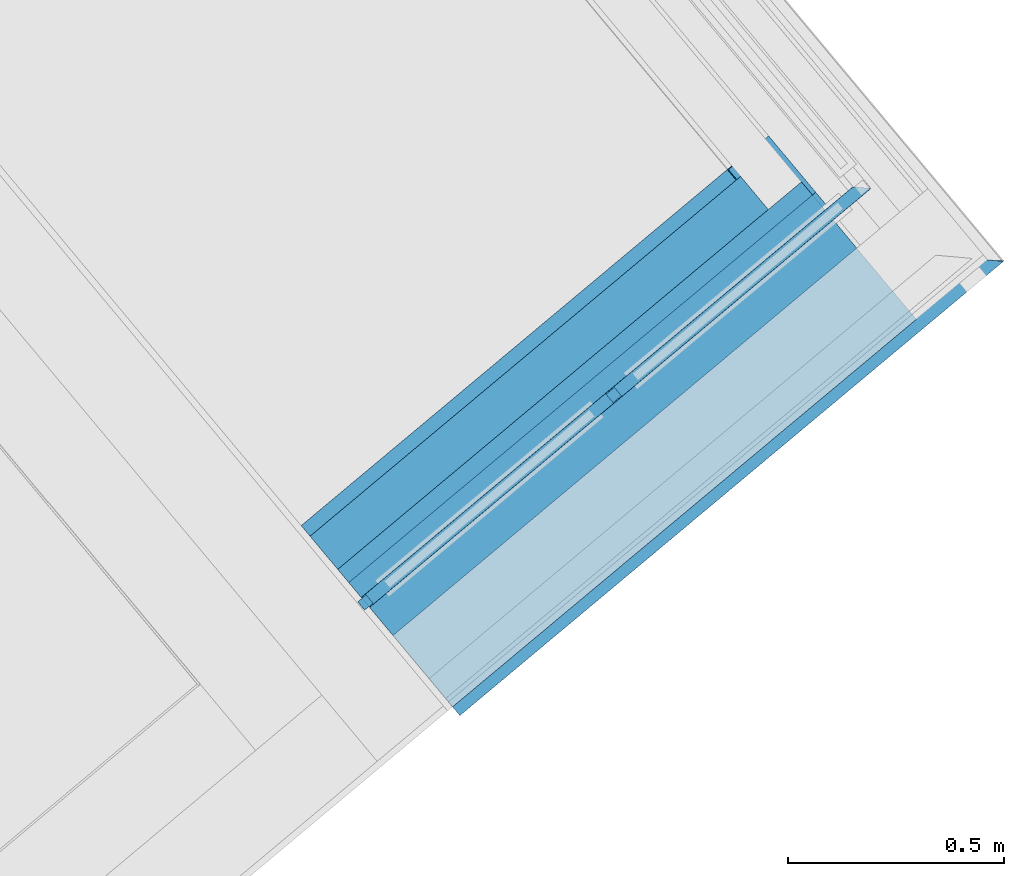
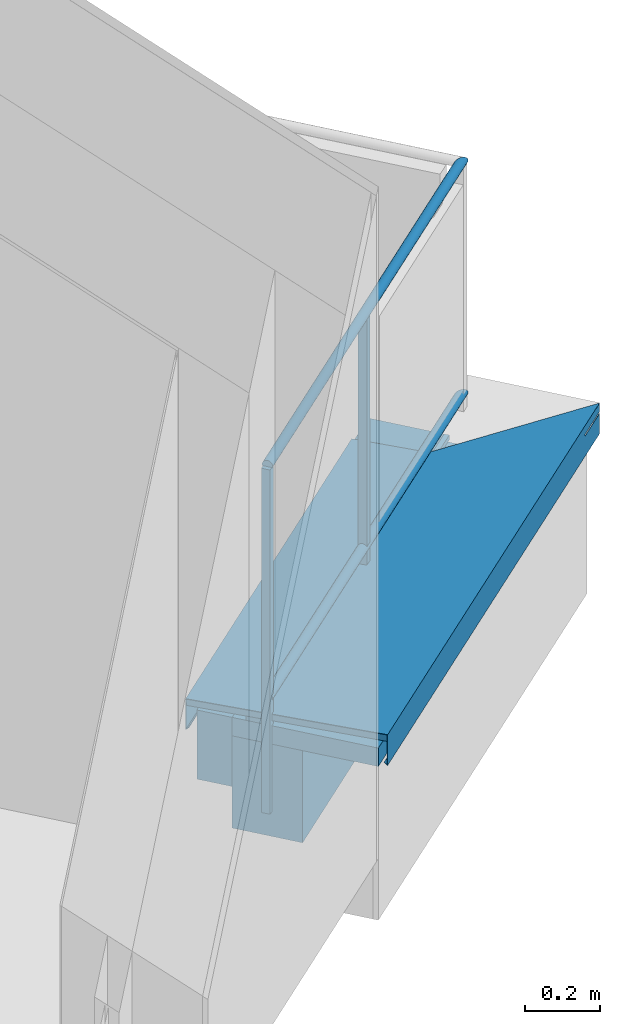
# One storey, part 32 of 61: 10 building element parts, 2 elements without a shape of their own.
"""IFC4 building model written with IfcOpenShell, lengths in metres."""

from ifc_helpers import new_model, entity, si_unit, converted_unit, derived_unit, direction, frame, origin_with_axes, place, context, subcontext, project, spatial, polygons, material, type_object, element, aggregate, save


model = new_model("IFC4")

# Units and contexts
model_context = context("Model", 3, precision=1e-05, world=origin_with_axes(), true_north=direction((0.0, 1.0)))
body_context = subcontext(model_context, "Body", "Model", "MODEL_VIEW")
ifc_project = project(units=[si_unit("LENGTHUNIT", "METRE"), si_unit("AREAUNIT", "SQUARE_METRE"), si_unit("VOLUMEUNIT", "CUBIC_METRE"), converted_unit("PLANEANGLEUNIT", "DEGREE", entity("IfcPlaneAngleMeasure", 0.0174532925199), si_unit("PLANEANGLEUNIT", "RADIAN"), dimensions=[0, 0, 0, 0, 0, 0, 0]), converted_unit("TIMEUNIT", "Year", entity("IfcTimeMeasure", 31556926.0), si_unit("TIMEUNIT", "SECOND"), dimensions=[0, 0, 1, 0, 0, 0, 0]), si_unit("MASSUNIT", "GRAM", prefix="KILO"), si_unit("THERMODYNAMICTEMPERATUREUNIT", "DEGREE_CELSIUS"), si_unit("LUMINOUSINTENSITYUNIT", "LUMEN"), si_unit("ENERGYUNIT", "JOULE", prefix="MEGA"), derived_unit("THERMALCONDUCTANCEUNIT", [(si_unit("POWERUNIT", "WATT"), 1), (si_unit("LENGTHUNIT", "METRE"), -1), (si_unit("THERMODYNAMICTEMPERATUREUNIT", "KELVIN"), -1)]), derived_unit("SPECIFICHEATCAPACITYUNIT", [(si_unit("ENERGYUNIT", "JOULE"), 1), (si_unit("MASSUNIT", "GRAM", prefix="KILO"), -1), (si_unit("THERMODYNAMICTEMPERATUREUNIT", "KELVIN"), -1)]), derived_unit("MASSDENSITYUNIT", [(si_unit("MASSUNIT", "GRAM", prefix="KILO"), 1), (si_unit("VOLUMEUNIT", "CUBIC_METRE"), -1)])], contexts=[model_context])

# Site, building, storey
site_placement = place(None, frame((-0.00153261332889, -0.00661245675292, 0.0), z_axis=(0.0, 0.0, 1.0), x_axis=(1.0, 0.0, 0.0)))
site = spatial("IfcSite", under=ifc_project, at=site_placement, Name="Gelände", CompositionType="ELEMENT")
building_placement = place(site_placement, origin_with_axes())
building = spatial("IfcBuilding", under=site, at=building_placement, Name="Gebäude", CompositionType="ELEMENT")
storey_placement = place(building_placement, frame((0.0, 0.0, 5.7), z_axis=(0.0, 0.0, 1.0), x_axis=(1.0, 0.0, 0.0)))
storey = spatial("IfcBuildingStorey", under=building, at=storey_placement, Name="DG1", CompositionType="ELEMENT", Elevation=5.7)

# Wall, building element parts
wall_type = type_object("IfcWallType", Name="Balkon Dämmung runter 574 x 610", PredefinedType="NOTDEFINED")
wall_placement = place(storey_placement, frame((13.259988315, 20.4436832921, -0.2), z_axis=(0.0, 0.0, 1.0), x_axis=(0.767365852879, 0.641209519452, 0.0)))
wall = element("IfcWall", 1, at=wall_placement, inside=storey, type_object=wall_type, Name="Wand-004", PredefinedType="NOTDEFINED")
ifc_material_1 = material(Name="Stahl")
building_element_part_1_placement = place(wall_placement, origin_with_axes())
building_element_part_1 = element("IfcBuildingElementPart", 2, at=building_element_part_1_placement, material=ifc_material_1, Name="Stahl", PredefinedType="NOTDEFINED", context=body_context, shape_type="Tessellation", body=[
    polygons([(0.0, 0.330698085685, 0.587937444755), (0.0, 0.330698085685, 0.491006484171), (1.30012100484, 0.330698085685, 0.491006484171), (1.30012100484, 0.330698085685, 0.496604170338), (1.28747735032, 0.330698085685, 0.496604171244), (1.28652006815, 0.330698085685, 0.497561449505), (1.28652006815, 0.330698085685, 0.498822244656), (1.28652006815, 0.330698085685, 0.498915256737), (1.28652006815, 0.330698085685, 0.499999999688), (1.28652006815, 0.330698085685, 0.506731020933), (1.28652006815, 0.330698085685, 0.509050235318), (1.28652006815, 0.330698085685, 0.509099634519), (1.28652006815, 0.330698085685, 0.51136132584), (1.28652006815, 0.330698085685, 0.511410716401), (1.28652006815, 0.330698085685, 0.519224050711), (1.28652006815, 0.330698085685, 0.519273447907), (1.28652006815, 0.330698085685, 0.559999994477), (1.28652006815, 0.330698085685, 0.567947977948), (1.28652006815, 0.330698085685, 0.573880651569), (1.28652006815, 0.330698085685, 0.575576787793), (1.28652006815, 0.330698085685, 0.575979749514), (1.28652006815, 0.330698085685, 0.57982217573), (1.28652006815, 0.330698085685, 0.581921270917), (1.28652006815, 0.330698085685, 0.584015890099), (1.28652006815, 0.330698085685, 0.586106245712), (1.28652006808, 0.330698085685, 0.587937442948), (0.0, 0.332051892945, 0.489652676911), (0.0, 0.331094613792, 0.488695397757), (0.0, 0.321878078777, 0.497911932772), (0.0, 0.32288233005, 0.498822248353), (0.0, -0.239276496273, 0.608570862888), (0.0, -0.240152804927, 0.608602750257), (0.0, -0.240146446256, 0.51136132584), (0.0, -0.232283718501, 0.519224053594), (0.0, -0.231373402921, 0.518219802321), (0.0, -0.240542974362, 0.509050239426), (0.0, -0.241500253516, 0.510007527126), (0.0, -0.241500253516, 0.610006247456), (0.0, 0.332051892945, 0.589243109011), (1.30012097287, 0.322882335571, 0.498822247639), (1.30012098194, 0.325100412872, 0.496604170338), (1.30012101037, 0.332051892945, 0.491006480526), (1.30012101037, 0.332051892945, 0.496604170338), (1.28747735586, 0.332051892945, 0.496604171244), (1.28652007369, 0.332051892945, 0.497561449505), (1.28652007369, 0.332051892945, 0.498822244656), (1.28652007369, 0.332051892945, 0.498915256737), (1.28652007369, 0.332051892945, 0.499999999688), (1.28652007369, 0.332051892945, 0.506731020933), (1.28652007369, 0.332051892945, 0.509050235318), (1.28652007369, 0.332051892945, 0.509099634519), (1.28652007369, 0.332051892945, 0.51136132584), (1.28652007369, 0.332051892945, 0.511410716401), (1.28652007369, 0.332051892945, 0.519224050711), (1.28652007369, 0.332051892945, 0.519273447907), (1.28652007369, 0.332051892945, 0.559999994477), (1.28652007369, 0.332051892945, 0.567947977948), (1.28652007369, 0.332051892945, 0.573880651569), (1.28652007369, 0.332051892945, 0.575576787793), (1.28652007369, 0.332051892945, 0.575979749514), (1.28652007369, 0.332051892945, 0.57982217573), (1.28652007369, 0.332051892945, 0.581921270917), (1.28652007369, 0.332051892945, 0.584015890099), (1.28652007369, 0.332051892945, 0.586106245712), (1.28652007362, 0.332051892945, 0.587937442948), (1.28651917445, 0.112227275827, 0.595846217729), (1.28651902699, 0.0761598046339, 0.597151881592), (1.60182724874, -0.239276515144, 0.608570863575), (1.30012101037, 0.332051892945, 0.489652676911), (1.30012100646, 0.331094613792, 0.488695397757), (1.300120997, 0.328783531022, 0.491006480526), (1.30012097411, 0.323185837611, 0.496604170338), (1.30012096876, 0.32187807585, 0.497911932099), (1.60270772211, -0.240152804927, 0.608602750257), (1.64021248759, -0.240152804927, 0.608602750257), (1.64147858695, -0.240152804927, 0.608602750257), (1.64147858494, -0.240152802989, 0.608570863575), (1.64147775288, -0.240151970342, 0.595846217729), (1.64147723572, -0.240151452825, 0.587937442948), (1.64147711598, -0.240151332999, 0.586106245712), (1.64147697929, -0.240151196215, 0.584015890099), (1.64147684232, -0.240151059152, 0.581921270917), (1.59012603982, -0.240151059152, 0.581921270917), (1.53024364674, -0.240151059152, 0.581921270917), (1.53024364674, -0.240150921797, 0.57982217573), (1.53024364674, -0.240150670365, 0.575979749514), (1.5901579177, -0.240150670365, 0.575979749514), (1.6414764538, -0.240150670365, 0.575979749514), (1.64147642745, -0.240150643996, 0.575576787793), (1.64147631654, -0.240150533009, 0.573880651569), (1.6414759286, -0.2401501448, 0.567947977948), (1.64147540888, -0.240149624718, 0.559999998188), (1.6414727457, -0.240146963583, 0.519273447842), (1.64147274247, -0.240146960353, 0.519224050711), (1.64147223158, -0.240146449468, 0.511410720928), (1.64282604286, -0.240146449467, 0.511410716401), (1.64282604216, -0.240146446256, 0.51136132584), (1.6396070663, -0.24014644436, 0.511361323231), (1.63955767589, -0.24009705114, 0.511410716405), (1.63269921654, -0.233238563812, 0.518269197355), (1.63356475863, -0.23228372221, 0.519224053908), (1.63269922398, -0.231418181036, 0.518269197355), (1.63274862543, -0.23137340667, 0.518219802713), (1.63955768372, -0.23818249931, 0.511410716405), (1.63960707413, -0.238231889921, 0.51136132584), (1.64186875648, -0.240493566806, 0.509099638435), (1.61511864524, -0.240493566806, 0.509099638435), (1.61511864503, -0.240542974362, 0.509050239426), (1.61511864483, -0.240592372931, 0.509099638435), (1.64186875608, -0.240592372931, 0.509099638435), (1.64096085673, -0.241500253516, 0.510007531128), (1.63960706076, -0.241500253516, 0.511361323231), (1.64282603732, -0.241500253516, 0.511361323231), (1.64282603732, -0.241500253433, 0.511410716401), (1.64147222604, -0.241500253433, 0.511410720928), (1.64147273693, -0.241500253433, 0.519224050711), (1.64147274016, -0.241500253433, 0.519273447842), (1.64147540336, -0.241500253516, 0.559999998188), (1.64147592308, -0.241500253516, 0.567947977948), (1.64147631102, -0.241500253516, 0.573880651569), (1.64147642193, -0.241500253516, 0.575576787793), (1.64147644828, -0.241500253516, 0.575979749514), (1.59015791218, -0.241500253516, 0.575979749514), (1.53024364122, -0.241500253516, 0.575979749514), (1.53024364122, -0.241500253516, 0.57982217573), (1.53024364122, -0.241500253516, 0.581921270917), (1.5901260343, -0.241500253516, 0.581921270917), (1.6414768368, -0.241500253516, 0.581921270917), (1.64147697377, -0.241500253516, 0.584015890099), (1.64147711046, -0.241500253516, 0.586106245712), (1.6414772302, -0.241500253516, 0.587937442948), (1.64147774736, -0.241500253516, 0.595846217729), (1.64147857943, -0.241500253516, 0.608570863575), (1.64147858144, -0.241500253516, 0.608602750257), (1.64021248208, -0.241500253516, 0.608602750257), (1.6027077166, -0.241500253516, 0.608602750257), (1.60407158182, -0.241500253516, 0.60865214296), (1.64146214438, -0.241500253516, 0.610006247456), (1.60407173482, -0.204095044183, 0.60865214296), (1.60270787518, -0.202730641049, 0.608602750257), (1.60182740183, -0.201849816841, 0.608570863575), (1.28651918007, 0.113583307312, 0.597151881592), (1.28651932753, 0.149650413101, 0.595846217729), (1.28652007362, 0.332051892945, 0.589243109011)], [[[1, 2, 3, 4, 5, 6, 7, 8, 9, 10, 11, 12, 13, 14, 15, 16, 17, 18, 19, 20, 21, 22, 23, 24, 25, 26]], [[27, 28, 29, 30, 2, 1, 31, 32, 33, 34, 35, 36, 37, 38, 39]], [[2, 30, 40, 41, 3]], [[3, 42, 43, 4]], [[43, 44, 5, 4]], [[45, 6, 5, 44]], [[6, 45, 46, 7]], [[7, 46, 47, 8]], [[8, 47, 48, 9]], [[9, 48, 49, 10]], [[10, 49, 50, 11]], [[11, 50, 51, 12]], [[51, 52, 13, 12]], [[13, 52, 53, 14]], [[15, 14, 53, 54]], [[16, 15, 54, 55]], [[17, 16, 55, 56]], [[18, 17, 56, 57]], [[19, 18, 57, 58]], [[20, 19, 58, 59]], [[21, 20, 59, 60]], [[22, 21, 60, 61]], [[61, 62, 23, 22]], [[23, 62, 63, 24]], [[63, 64, 25, 24]], [[64, 65, 26, 25]], [[31, 1, 26, 66, 67, 68]], [[28, 27, 69, 70]], [[29, 28, 70, 71, 72, 73]], [[30, 29, 73, 40]], [[32, 31, 68, 74]], [[33, 32, 74, 75, 76, 77, 78, 79, 80, 81, 82, 83, 84, 85, 86, 87, 88, 89, 90, 91, 92, 93, 94, 95, 96, 97, 98]], [[34, 33, 98, 99, 100, 101]], [[35, 34, 101, 102, 103]], [[36, 35, 103, 104, 105, 106, 107, 108]], [[37, 36, 108, 109, 110, 111]], [[38, 37, 111, 112, 113, 114, 115, 116, 117, 118, 119, 120, 121, 122, 123, 124, 125, 126, 127, 128, 129, 130, 131, 132, 133, 134, 135, 136, 137, 138]], [[39, 38, 138, 139, 140, 141, 142, 143, 144]], [[27, 39, 144, 65, 64, 63, 62, 61, 60, 59, 58, 57, 56, 55, 54, 53, 52, 51, 50, 49, 48, 47, 46, 45, 44, 43, 42, 69]], [[41, 40, 73, 72]], [[3, 41, 72, 71]], [[69, 42, 3, 71, 70]], [[65, 144, 143, 66, 26]], [[66, 143, 142, 67]], [[141, 68, 67, 142]], [[68, 141, 140, 74]], [[74, 136, 135, 75]], [[75, 135, 134, 76]], [[133, 77, 76, 134]], [[132, 78, 77, 133]], [[131, 79, 78, 132]], [[80, 79, 131, 130]], [[80, 130, 129, 81]], [[129, 128, 82, 81]], [[127, 83, 82, 128]], [[126, 84, 83, 127]], [[125, 85, 84, 126]], [[124, 86, 85, 125]], [[86, 124, 123, 87]], [[87, 123, 122, 88]], [[122, 121, 89, 88]], [[121, 120, 90, 89]], [[120, 119, 91, 90]], [[92, 91, 119, 118]], [[93, 92, 118, 117]], [[94, 93, 117, 116]], [[95, 94, 116, 115]], [[95, 115, 114, 96]], [[114, 113, 97, 96]], [[112, 98, 97, 113]], [[98, 105, 104, 99]], [[99, 104, 103, 102, 100]], [[100, 102, 101]], [[105, 98, 112, 111, 110, 106]], [[109, 107, 106, 110]], [[108, 107, 109]], [[136, 74, 140, 139, 137]], [[137, 139, 138]]], closed=True),
])
ifc_material_2 = material(Name="Holzwerkstoff")
building_element_part_2_placement = place(wall_placement, origin_with_axes())
building_element_part_2 = element("IfcBuildingElementPart", 3, at=building_element_part_2_placement, material=ifc_material_2, Name="Holzwerkstoff", PredefinedType="NOTDEFINED", context=body_context, shape_type="Tessellation", body=[
    polygons([(0.0, 0.329999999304, 0.567947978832), (0.0, 0.330698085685, 0.587937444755), (1.28815005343, 0.330698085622, 0.587937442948), (1.28821400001, 0.330634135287, 0.586106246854), (1.28828699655, 0.330561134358, 0.584015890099), (1.28836014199, 0.330487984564, 0.581921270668), (1.28843344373, 0.330414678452, 0.579822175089), (1.28856762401, 0.330280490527, 0.575979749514), (1.28858169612, 0.330266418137, 0.575576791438), (1.41017729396, 0.33026641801, 0.575576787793), (1.41018672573, 0.330207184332, 0.573880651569), (1.41021971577, 0.329999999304, 0.567947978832), (0.0, -0.130124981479, 0.584015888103), (0.0, -0.189984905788, 0.586106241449), (0.0, -0.239999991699, 0.587852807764), (0.0, -0.239276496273, 0.608570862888), (0.0, 0.160110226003, 0.573880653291), (0.0, 0.0999999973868, 0.575979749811), (1.63939516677, -0.239276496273, 0.608570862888), (1.28787297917, 0.11222723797, 0.5958462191), (1.28814771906, -0.239997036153, 0.587937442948), (1.28815067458, -0.239999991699, 0.587852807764), (1.28821187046, -0.189985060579, 0.586106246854), (1.28828511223, -0.130124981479, 0.584015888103), (1.28835850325, -0.0701429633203, 0.581921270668), (1.28843205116, -0.0100327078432, 0.579822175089), (1.28856668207, 0.100000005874, 0.575979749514), (1.28858080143, 0.111539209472, 0.575576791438), (1.41017639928, 0.111539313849, 0.575576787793), (1.41018602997, 0.160110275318, 0.573880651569), (1.28787153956, -0.239720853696, 0.5958462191)], [[[1, 2, 3, 4, 5, 6, 7, 8, 9, 10, 11, 12]], [[13, 14, 15, 16, 2, 1, 17, 18]], [[2, 16, 19, 20, 3]], [[4, 3, 21, 22, 23]], [[5, 4, 23, 24]], [[6, 5, 24, 25]], [[26, 7, 6, 25]], [[27, 8, 7, 26]], [[27, 28, 9, 8]], [[9, 28, 29, 10]], [[11, 10, 29, 30]], [[30, 12, 11]], [[17, 1, 12, 30]], [[14, 13, 24, 23]], [[15, 14, 23, 22]], [[16, 15, 22, 21, 31, 19]], [[18, 17, 30, 29, 28, 27]], [[13, 18, 27, 26, 25, 24]], [[31, 20, 19]], [[3, 20, 31, 21]]], closed=True),
])
ifc_material_3 = material(Name="EPS 1")
building_element_part_3_placement = place(wall_placement, origin_with_axes())
building_element_part_3 = element("IfcBuildingElementPart", 4, at=building_element_part_3_placement, material=ifc_material_3, Name="EPS 1", PredefinedType="NOTDEFINED", context=body_context, shape_type="Tessellation", body=[
    polygons([(0.0, 0.199999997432, 0.335), (0.0, 0.3, 0.335), (1.30012087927, 0.3, 0.335), (1.30012047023, 0.199999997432, 0.335), (0.0, 0.2, 0.560000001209), (0.0, 0.3, 0.560000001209), (1.30012087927, 0.3, 0.560000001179), (1.30012087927, 0.3, 0.519273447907), (1.30012087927, 0.3, 0.519224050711), (1.30012087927, 0.3, 0.511410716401), (1.30012087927, 0.3, 0.51136132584), (1.30012087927, 0.3, 0.509099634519), (1.30012087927, 0.3, 0.509050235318), (1.30012087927, 0.3, 0.506731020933), (1.30012087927, 0.3, 0.499999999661), (1.30012087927, 0.3, 0.498915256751), (1.30012087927, 0.3, 0.498822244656), (1.30012087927, 0.3, 0.496604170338), (1.30012087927, 0.3, 0.491006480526), (1.30012087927, 0.3, 0.488695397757), (1.30012047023, 0.199999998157, 0.488695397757), (1.30012047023, 0.199999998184, 0.491006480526), (1.30012047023, 0.199999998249, 0.496604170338), (1.30012047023, 0.199999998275, 0.498822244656), (1.30012047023, 0.199999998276, 0.498915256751), (1.30012047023, 0.199999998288, 0.499999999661), (1.30012047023, 0.199999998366, 0.506731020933), (1.30012047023, 0.199999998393, 0.509050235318), (1.30012047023, 0.199999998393, 0.509099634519), (1.30012047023, 0.19999999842, 0.51136132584), (1.30012047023, 0.19999999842, 0.511410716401), (1.30012047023, 0.199999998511, 0.519224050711), (1.30012047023, 0.199999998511, 0.519273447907), (1.30012047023, 0.199999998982, 0.560000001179)], [[[1, 2, 3, 4]], [[2, 1, 5, 6]], [[2, 6, 7, 8, 9, 10, 11, 12, 13, 14, 15, 16, 17, 18, 19, 20, 3]], [[3, 20, 21, 4]], [[5, 1, 4, 21, 22, 23, 24, 25, 26, 27, 28, 29, 30, 31, 32, 33, 34]], [[6, 5, 34, 7]], [[34, 33, 8, 7]], [[33, 32, 9, 8]], [[32, 31, 10, 9]], [[31, 30, 11, 10]], [[30, 29, 12, 11]], [[29, 28, 13, 12]], [[14, 13, 28, 27]], [[15, 14, 27, 26]], [[16, 15, 26, 25]], [[17, 16, 25, 24]], [[18, 17, 24, 23]], [[19, 18, 23, 22]], [[20, 19, 22, 21]]], closed=True),
])
ifc_material_4 = material(Name="Vollholz")
building_element_part_4_placement = place(wall_placement, origin_with_axes())
building_element_part_4 = element("IfcBuildingElementPart", 5, at=building_element_part_4_placement, material=ifc_material_4, Name="Vollholz", PredefinedType="NOTDEFINED", context=body_context, shape_type="Tessellation", body=[
    polygons([(1.41017635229, 0.1, 0.575576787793), (1.41017411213, 0.1, 0.575979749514), (0.0, 0.1, 0.575979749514), (0.0, 0.1, 0.560000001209), (1.41026297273, 0.1, 0.560000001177), (1.41021877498, 0.1, 0.567947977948), (1.41018578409, 0.1, 0.573880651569), (1.4101763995, 0.11153931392, 0.575576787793), (1.41018602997, 0.160110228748, 0.573880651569), (0.0, 0.160110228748, 0.573880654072), (0.0, 0.16, 0.560000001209), (1.41026321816, 0.16, 0.560000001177), (1.41021902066, 0.160063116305, 0.567947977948)], [[[1, 2, 3, 4, 5, 6, 7]], [[8, 2, 1]], [[2, 8, 9, 10, 3]], [[11, 4, 3, 10]], [[12, 5, 4, 11]], [[13, 6, 5, 12]], [[9, 7, 6, 13]], [[8, 1, 7, 9]], [[9, 13, 12, 11, 10]]], closed=True),
])
ifc_material_5 = material(Name="Stahlbeton")
building_element_part_5_placement = place(wall_placement, origin_with_axes())
building_element_part_5 = element("IfcBuildingElementPart", 6, at=building_element_part_5_placement, material=ifc_material_5, Name="Stahlbeton", PredefinedType="NOTDEFINED", context=body_context, shape_type="Tessellation", body=[
    polygons([(1.40011965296, -2.73518807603e-09, 0.498915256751), (1.40011965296, -2.73518985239e-09, 0.500000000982), (0.0, -2.73518807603e-09, 0.499999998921), (0.0, -2.73518807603e-09, 0.200000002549), (1.40011965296, -2.73518807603e-09, 0.2), (1.40011965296, -2.73518807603e-09, 0.334999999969), (1.40011965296, -2.73518807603e-09, 0.488695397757), (1.40011965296, -2.73518807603e-09, 0.491006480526), (1.40011965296, -2.73518807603e-09, 0.496604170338), (1.40011965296, -2.73518807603e-09, 0.498822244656), (1.40012047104, 0.199999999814, 0.500000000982), (1.40012047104, 0.199999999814, 0.498915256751), (0.0, 0.199999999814, 0.500000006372), (0.0, 0.199999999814, 0.334999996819), (0.0, 0.199999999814, 0.200000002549), (1.40012047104, 0.199999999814, 0.2), (1.40012047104, 0.199999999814, 0.334999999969), (1.40012047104, 0.199999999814, 0.488695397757), (1.40012047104, 0.199999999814, 0.491006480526), (1.40012047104, 0.199999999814, 0.496604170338), (1.40012047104, 0.199999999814, 0.498822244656)], [[[1, 2, 3, 4, 5, 6, 7, 8, 9, 10]], [[11, 2, 1, 12]], [[2, 11, 13, 3]], [[3, 13, 14, 15, 4]], [[16, 5, 4, 15]], [[17, 6, 5, 16]], [[18, 7, 6, 17]], [[19, 8, 7, 18]], [[20, 9, 8, 19]], [[21, 10, 9, 20]], [[12, 1, 10, 21]], [[11, 12, 21, 20, 19, 18, 17, 14, 13]], [[17, 16, 15, 14]]], closed=True),
])
ifc_material_6 = material(Name="Brettschichtholz")
building_element_part_6_placement = place(wall_placement, origin_with_axes())
building_element_part_6 = element("IfcBuildingElementPart", 7, at=building_element_part_6_placement, material=ifc_material_6, Name="Brettschichtholz", PredefinedType="NOTDEFINED", context=body_context, shape_type="Tessellation", body=[
    polygons([(0.0, -0.214999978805, 0.500000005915), (0.0, -0.214999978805, 0.560000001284), (0.0, -0.190124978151, 0.560000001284), (0.0, -0.130124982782, 0.560000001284), (0.0, 0.100000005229, 0.560000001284), (0.0, 0.160000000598, 0.560000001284), (0.0, 0.200000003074, 0.560000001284), (0.0, 0.199999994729, 0.500000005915), (1.40011877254, -0.214999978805, 0.500000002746), (1.40011877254, -0.214999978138, 0.506731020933), (1.40011877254, -0.214999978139, 0.509050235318), (1.40011877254, -0.214999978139, 0.509099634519), (1.40011877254, -0.214999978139, 0.51136132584), (1.40011877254, -0.214999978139, 0.511410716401), (1.40011877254, -0.214999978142, 0.519224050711), (1.40011877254, -0.214999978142, 0.519273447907), (1.40011877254, -0.214999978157, 0.560000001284), (1.40011887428, -0.190124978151, 0.560000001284), (1.40011911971, -0.130124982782, 0.560000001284), (1.40012006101, 0.100000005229, 0.560000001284), (1.40012030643, 0.160000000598, 0.560000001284), (1.40012047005, 0.200000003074, 0.560000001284), (1.40012047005, 0.199999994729, 0.500000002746), (1.40012047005, 0.19999999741, 0.519273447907), (1.40012047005, 0.199999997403, 0.519224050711), (1.40012047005, 0.199999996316, 0.511410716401), (1.40012047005, 0.199999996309, 0.51136132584), (1.40012047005, 0.199999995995, 0.509099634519), (1.40012047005, 0.199999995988, 0.509050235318), (1.40012047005, 0.199999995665, 0.506731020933)], [[[1, 2, 3, 4, 5, 6, 7, 8]], [[2, 1, 9, 10, 11, 12, 13, 14, 15, 16, 17]], [[3, 2, 17, 18]], [[4, 3, 18, 19]], [[5, 4, 19, 20]], [[6, 5, 20, 21]], [[7, 6, 21, 22]], [[23, 8, 7, 22, 24, 25, 26, 27, 28, 29, 30]], [[1, 8, 23, 9]], [[10, 9, 23, 30]], [[11, 10, 30, 29]], [[12, 11, 29, 28]], [[13, 12, 28, 27]], [[14, 13, 27, 26]], [[15, 14, 26, 25]], [[25, 24, 16, 15]], [[21, 20, 19, 18, 17, 16, 24, 22]]], closed=True),
])
aggregate(wall, [building_element_part_1, building_element_part_2, building_element_part_3, building_element_part_4, building_element_part_5, building_element_part_6])

# Space
space_placement = place(storey_placement, frame((9.89495575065, 25.0808160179, 0.22), z_axis=(0.0, 0.0, 1.0), x_axis=(-0.767365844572, -0.641209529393, 0.0)))
space = spatial("IfcSpace", under=storey, at=space_placement, CompositionType="ELEMENT", PredefinedType="NOTDEFINED")

# Railing, building element parts
railing_type = type_object("IfcRailingType", Name="Geländerart", PredefinedType="NOTDEFINED")
railing_placement = place(space_placement, frame((0.391162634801, 5.51606821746, 0.16), z_axis=(0.0, 0.0, 1.0), x_axis=(-0.767365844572, 0.641209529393, 0.0)))
railing = element("IfcRailing", 8, at=railing_placement, inside=space, type_object=railing_type, Name="Geländer - 001", PredefinedType="NOTDEFINED")
ifc_material_7 = material(Name="Aluminium")
building_element_part_7_placement = place(railing_placement, origin_with_axes())
building_element_part_7 = element("IfcBuildingElementPart", 9, at=building_element_part_7_placement, material=ifc_material_7, Name="Aluminium", PredefinedType="NOTDEFINED", context=body_context, shape_type="Tessellation", body=[
    polygons([(0.0817222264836, -0.078320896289, -0.3), (0.0656948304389, -0.0591343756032, -0.3), (0.0656948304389, -0.0591343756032, 0.82), (0.0817222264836, -0.078320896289, 0.82), (0.0625357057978, -0.0943482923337, -0.3), (0.0465083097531, -0.0751617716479, -0.3), (0.0465083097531, -0.0751617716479, 0.82), (0.0625357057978, -0.0943482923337, 0.82)], [[[1, 2, 3, 4]], [[1, 5, 6, 2]], [[2, 6, 7, 3]], [[4, 3, 7, 8]], [[5, 1, 4, 8]], [[6, 5, 8, 7]]], closed=True),
])
building_element_part_8_placement = place(railing_placement, origin_with_axes())
building_element_part_8 = element("IfcBuildingElementPart", 10, at=building_element_part_8_placement, material=ifc_material_7, Name="Aluminium", PredefinedType="NOTDEFINED", context=body_context, shape_type="Tessellation", body=[
    polygons([(0.0544988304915, -0.065229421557, 0.825), (0.0546449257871, -0.0654043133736, 0.827604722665), (1.1940181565, 0.886367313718, 0.827604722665), (1.19369716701, 0.886396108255, 0.825), (0.0546449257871, -0.0654043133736, 0.822395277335), (0.0550787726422, -0.0659236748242, 0.81986969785), (0.0557871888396, -0.066771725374, 0.8175), (0.0567486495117, -0.067922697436, 0.815358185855), (0.0579339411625, -0.0693416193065, 0.813509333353), (0.0593070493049, -0.0709853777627, 0.812009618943), (0.0608262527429, -0.0728040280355, 0.810904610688), (0.0624453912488, -0.0747423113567, 0.810227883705), (0.0641152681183, -0.0767413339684, 0.81), (0.0657851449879, -0.0787403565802, 0.810227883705), (0.0674042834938, -0.0806786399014, 0.810904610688), (0.0689234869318, -0.0824972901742, 0.812009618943), (0.0702965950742, -0.0841410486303, 0.813509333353), (0.071481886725, -0.0855599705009, 0.815358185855), (0.0724433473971, -0.0867109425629, 0.8175), (0.0731517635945, -0.0875589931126, 0.81986969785), (0.0735856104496, -0.0880783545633, 0.822395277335), (0.0737317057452, -0.0882532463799, 0.825), (0.0735856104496, -0.0880783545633, 0.827604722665), (0.0731517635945, -0.0875589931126, 0.83013030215), (0.0724433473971, -0.0867109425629, 0.8325), (0.071481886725, -0.0855599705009, 0.834641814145), (0.0702965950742, -0.0841410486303, 0.836490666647), (0.0689234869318, -0.0824972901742, 0.837990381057), (0.0674042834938, -0.0806786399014, 0.839095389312), (0.0657851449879, -0.0787403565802, 0.839772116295), (0.0641152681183, -0.0767413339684, 0.84), (0.0624453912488, -0.0747423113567, 0.839772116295), (0.0608262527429, -0.0728040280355, 0.839095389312), (0.0593070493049, -0.0709853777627, 0.837990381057), (0.0579339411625, -0.0693416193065, 0.836490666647), (0.0567486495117, -0.067922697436, 0.834641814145), (0.0557871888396, -0.066771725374, 0.8325), (0.0550787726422, -0.0659236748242, 0.83013030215), (1.19497137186, 0.886281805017, 0.83013030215), (1.19652785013, 0.88614218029, 0.8325), (1.1986402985, 0.885952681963, 0.834641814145), (1.2012445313, 0.885719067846, 0.836490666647), (1.20426142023, 0.885448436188, 0.837990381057), (1.20759929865, 0.885149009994, 0.839095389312), (1.21115674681, 0.884829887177, 0.839772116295), (1.21482567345, 0.884500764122, 0.84), (1.21849460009, 0.884171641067, 0.839772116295), (1.22205204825, 0.88385251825, 0.839095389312), (1.22538992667, 0.883553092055, 0.837990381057), (1.2284068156, 0.883282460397, 0.836490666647), (1.2310110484, 0.883048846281, 0.834641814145), (1.23312349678, 0.882859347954, 0.8325), (1.23467997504, 0.882719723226, 0.83013030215), (1.23563319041, 0.882634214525, 0.827604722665), (1.23595417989, 0.882605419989, 0.825), (1.23563319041, 0.882634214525, 0.822395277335), (1.23467997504, 0.882719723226, 0.81986969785), (1.23312349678, 0.882859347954, 0.8175), (1.2310110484, 0.883048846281, 0.815358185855), (1.2284068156, 0.883282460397, 0.813509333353), (1.22538992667, 0.883553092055, 0.812009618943), (1.22205204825, 0.88385251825, 0.810904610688), (1.21849460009, 0.884171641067, 0.810227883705), (1.21482567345, 0.884500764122, 0.81), (1.21115674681, 0.884829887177, 0.810227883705), (1.20759929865, 0.885149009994, 0.810904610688), (1.20426142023, 0.885448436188, 0.812009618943), (1.2012445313, 0.885719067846, 0.813509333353), (1.1986402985, 0.885952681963, 0.815358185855), (1.19652785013, 0.88614218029, 0.8175), (1.19497137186, 0.886281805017, 0.81986969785), (1.1940181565, 0.886367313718, 0.822395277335)], [[[1, 2, 3, 4]], [[1, 5, 6, 7, 8, 9, 10, 11, 12, 13, 14, 15, 16, 17, 18, 19, 20, 21, 22, 23, 24, 25, 26, 27, 28, 29, 30, 31, 32, 33, 34, 35, 36, 37, 38, 2]], [[2, 38, 39, 3]], [[4, 3, 39, 40, 41, 42, 43, 44, 45, 46, 47, 48, 49, 50, 51, 52, 53, 54, 55, 56, 57, 58, 59, 60, 61, 62, 63, 64, 65, 66, 67, 68, 69, 70, 71, 72]], [[5, 1, 4, 72]], [[6, 5, 72, 71]], [[7, 6, 71, 70]], [[8, 7, 70, 69]], [[9, 8, 69, 68]], [[10, 9, 68, 67]], [[11, 10, 67, 66]], [[12, 11, 66, 65]], [[13, 12, 65, 64]], [[14, 13, 64, 63]], [[15, 14, 63, 62]], [[16, 15, 62, 61]], [[17, 16, 61, 60]], [[18, 17, 60, 59]], [[19, 18, 59, 58]], [[20, 19, 58, 57]], [[21, 20, 57, 56]], [[22, 21, 56, 55]], [[23, 22, 55, 54]], [[24, 23, 54, 53]], [[25, 24, 53, 52]], [[26, 25, 52, 51]], [[27, 26, 51, 50]], [[28, 27, 50, 49]], [[29, 28, 49, 48]], [[30, 29, 48, 47]], [[31, 30, 47, 46]], [[32, 31, 46, 45]], [[33, 32, 45, 44]], [[34, 33, 44, 43]], [[35, 34, 43, 42]], [[36, 35, 42, 41]], [[37, 36, 41, 40]], [[38, 37, 40, 39]]], closed=True),
])
building_element_part_9_placement = place(railing_placement, origin_with_axes())
building_element_part_9 = element("IfcBuildingElementPart", 11, at=building_element_part_9_placement, material=ifc_material_7, Name="Aluminium", PredefinedType="NOTDEFINED", context=body_context, shape_type="Tessellation", body=[
    polygons([(0.0544988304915, -0.065229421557, 0.07), (0.0546449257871, -0.0654043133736, 0.072604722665), (1.1940181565, 0.886367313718, 0.072604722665), (1.19369716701, 0.886396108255, 0.07), (0.0546449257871, -0.0654043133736, 0.067395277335), (0.0550787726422, -0.0659236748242, 0.0648696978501), (0.0557871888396, -0.066771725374, 0.0625), (0.0567486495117, -0.067922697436, 0.0603581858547), (0.0579339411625, -0.0693416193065, 0.0585093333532), (0.0593070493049, -0.0709853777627, 0.0570096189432), (0.0608262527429, -0.0728040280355, 0.0559046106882), (0.0624453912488, -0.0747423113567, 0.0552278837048), (0.0641152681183, -0.0767413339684, 0.055), (0.0657851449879, -0.0787403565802, 0.0552278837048), (0.0674042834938, -0.0806786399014, 0.0559046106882), (0.0689234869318, -0.0824972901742, 0.0570096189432), (0.0702965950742, -0.0841410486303, 0.0585093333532), (0.071481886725, -0.0855599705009, 0.0603581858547), (0.0724433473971, -0.0867109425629, 0.0625), (0.0731517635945, -0.0875589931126, 0.0648696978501), (0.0735856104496, -0.0880783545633, 0.067395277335), (0.0737317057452, -0.0882532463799, 0.07), (0.0735856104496, -0.0880783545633, 0.072604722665), (0.0731517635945, -0.0875589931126, 0.0751303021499), (0.0724433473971, -0.0867109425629, 0.0775), (0.071481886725, -0.0855599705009, 0.0796418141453), (0.0702965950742, -0.0841410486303, 0.0814906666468), (0.0689234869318, -0.0824972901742, 0.0829903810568), (0.0674042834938, -0.0806786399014, 0.0840953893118), (0.0657851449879, -0.0787403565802, 0.0847721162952), (0.0641152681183, -0.0767413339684, 0.085), (0.0624453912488, -0.0747423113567, 0.0847721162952), (0.0608262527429, -0.0728040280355, 0.0840953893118), (0.0593070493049, -0.0709853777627, 0.0829903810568), (0.0579339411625, -0.0693416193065, 0.0814906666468), (0.0567486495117, -0.067922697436, 0.0796418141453), (0.0557871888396, -0.066771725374, 0.0775), (0.0550787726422, -0.0659236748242, 0.0751303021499), (1.19497137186, 0.886281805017, 0.0751303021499), (1.19652785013, 0.88614218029, 0.0775), (1.1986402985, 0.885952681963, 0.0796418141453), (1.2012445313, 0.885719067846, 0.0814906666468), (1.20426142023, 0.885448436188, 0.0829903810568), (1.20759929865, 0.885149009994, 0.0840953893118), (1.21115674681, 0.884829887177, 0.0847721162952), (1.21482567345, 0.884500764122, 0.085), (1.21849460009, 0.884171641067, 0.0847721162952), (1.22205204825, 0.88385251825, 0.0840953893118), (1.22538992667, 0.883553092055, 0.0829903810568), (1.2284068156, 0.883282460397, 0.0814906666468), (1.2310110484, 0.883048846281, 0.0796418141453), (1.23312349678, 0.882859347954, 0.0775), (1.23467997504, 0.882719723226, 0.0751303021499), (1.23563319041, 0.882634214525, 0.072604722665), (1.23595417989, 0.882605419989, 0.07), (1.23563319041, 0.882634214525, 0.067395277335), (1.23467997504, 0.882719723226, 0.0648696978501), (1.23312349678, 0.882859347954, 0.0625), (1.2310110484, 0.883048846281, 0.0603581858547), (1.2284068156, 0.883282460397, 0.0585093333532), (1.22538992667, 0.883553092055, 0.0570096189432), (1.22205204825, 0.88385251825, 0.0559046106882), (1.21849460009, 0.884171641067, 0.0552278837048), (1.21482567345, 0.884500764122, 0.055), (1.21115674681, 0.884829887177, 0.0552278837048), (1.20759929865, 0.885149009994, 0.0559046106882), (1.20426142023, 0.885448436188, 0.0570096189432), (1.2012445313, 0.885719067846, 0.0585093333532), (1.1986402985, 0.885952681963, 0.0603581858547), (1.19652785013, 0.88614218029, 0.0625), (1.19497137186, 0.886281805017, 0.0648696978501), (1.1940181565, 0.886367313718, 0.067395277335)], [[[1, 2, 3, 4]], [[1, 5, 6, 7, 8, 9, 10, 11, 12, 13, 14, 15, 16, 17, 18, 19, 20, 21, 22, 23, 24, 25, 26, 27, 28, 29, 30, 31, 32, 33, 34, 35, 36, 37, 38, 2]], [[2, 38, 39, 3]], [[4, 3, 39, 40, 41, 42, 43, 44, 45, 46, 47, 48, 49, 50, 51, 52, 53, 54, 55, 56, 57, 58, 59, 60, 61, 62, 63, 64, 65, 66, 67, 68, 69, 70, 71, 72]], [[5, 1, 4, 72]], [[6, 5, 72, 71]], [[7, 6, 71, 70]], [[8, 7, 70, 69]], [[9, 8, 69, 68]], [[10, 9, 68, 67]], [[11, 10, 67, 66]], [[12, 11, 66, 65]], [[13, 12, 65, 64]], [[14, 13, 64, 63]], [[15, 14, 63, 62]], [[16, 15, 62, 61]], [[17, 16, 61, 60]], [[18, 17, 60, 59]], [[19, 18, 59, 58]], [[20, 19, 58, 57]], [[21, 20, 57, 56]], [[22, 21, 56, 55]], [[23, 22, 55, 54]], [[24, 23, 54, 53]], [[25, 24, 53, 52]], [[26, 25, 52, 51]], [[27, 26, 51, 50]], [[28, 27, 50, 49]], [[29, 28, 49, 48]], [[30, 29, 48, 47]], [[31, 30, 47, 46]], [[32, 31, 46, 45]], [[33, 32, 45, 44]], [[34, 33, 44, 43]], [[35, 34, 43, 42]], [[36, 35, 42, 41]], [[37, 36, 41, 40]], [[38, 37, 40, 39]]], closed=True),
])
building_element_part_10_placement = place(railing_placement, origin_with_axes())
building_element_part_10 = element("IfcBuildingElementPart", 12, at=building_element_part_10_placement, material=ifc_material_7, Name="Aluminium", PredefinedType="NOTDEFINED", context=body_context, shape_type="Tessellation", body=[
    polygons([(0.65707742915, 0.402300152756, -0.3), (0.641050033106, 0.421486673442, -0.3), (0.641050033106, 0.421486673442, 0.82), (0.65707742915, 0.402300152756, 0.82), (0.637890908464, 0.386272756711, -0.3), (0.62186351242, 0.405459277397, -0.3), (0.62186351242, 0.405459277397, 0.82), (0.637890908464, 0.386272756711, 0.82)], [[[1, 2, 3, 4]], [[1, 5, 6, 2]], [[2, 6, 7, 3]], [[4, 3, 7, 8]], [[5, 1, 4, 8]], [[6, 5, 8, 7]]], closed=True),
])
aggregate(railing, [building_element_part_7, building_element_part_8, building_element_part_9, building_element_part_10])

save(model, "model.ifc")
